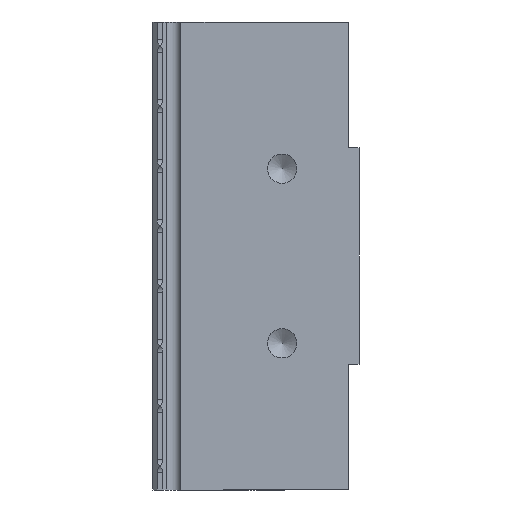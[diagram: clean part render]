
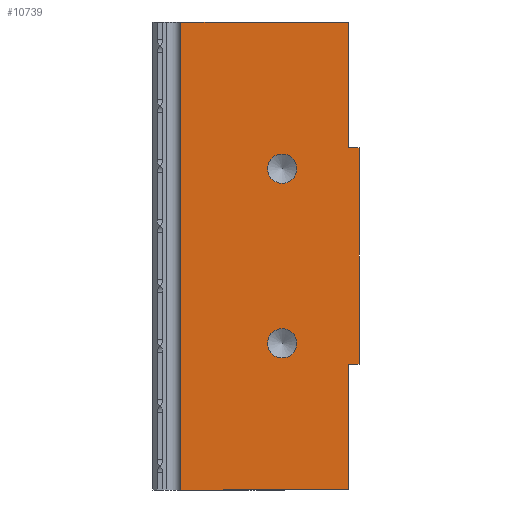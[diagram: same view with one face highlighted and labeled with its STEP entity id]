
A CAD part, left-side view. The second image highlights one B-rep face of the part: STEP entity #10739.
In plain terms, the highlighted planar face has unit normal (-1, 0, 0).
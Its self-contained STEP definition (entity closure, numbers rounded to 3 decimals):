
#243 = CARTESIAN_POINT ( 'NONE',  ( 0., 0., -15.5 ) ) ;
#264 = CARTESIAN_POINT ( 'NONE',  ( 0., 0., 0. ) ) ;
#353 = CIRCLE ( 'NONE', #11778, 2.1 ) ;
#393 = FACE_BOUND ( 'NONE', #2174, .T. ) ;
#516 = VERTEX_POINT ( 'NONE', #10118 ) ;
#534 = EDGE_CURVE ( 'NONE', #7215, #926, #5215, .T. ) ;
#791 = CARTESIAN_POINT ( 'NONE',  ( 0., 0., 33.5 ) ) ;
#792 = DIRECTION ( 'NONE',  ( 0., -1., 0. ) ) ;
#926 = VERTEX_POINT ( 'NONE', #4815 ) ;
#1058 = AXIS2_PLACEMENT_3D ( 'NONE', #264, #8599, #13028 ) ;
#1194 = ORIENTED_EDGE ( 'NONE', *, *, #8634, .F. ) ;
#1225 = VECTOR ( 'NONE', #2967, 1000. ) ;
#1498 = DIRECTION ( 'NONE',  ( 0., 1., 0. ) ) ;
#1564 = LINE ( 'NONE', #243, #12840 ) ;
#2120 = VERTEX_POINT ( 'NONE', #13006 ) ;
#2129 = CARTESIAN_POINT ( 'NONE',  ( 0., 0., 0. ) ) ;
#2174 = EDGE_LOOP ( 'NONE', ( #6117 ) ) ;
#2967 = DIRECTION ( 'NONE',  ( 0., 0., -1. ) ) ;
#3021 = CARTESIAN_POINT ( 'NONE',  ( 0., 0., 0. ) ) ;
#3140 = CARTESIAN_POINT ( 'NONE',  ( 0., -1.5, 15.5 ) ) ;
#3302 = LINE ( 'NONE', #3021, #6663 ) ;
#3545 = VERTEX_POINT ( 'NONE', #4292 ) ;
#3582 = EDGE_CURVE ( 'NONE', #8082, #8082, #5697, .T. ) ;
#3737 = VECTOR ( 'NONE', #9194, 1000. ) ;
#3916 = VERTEX_POINT ( 'NONE', #9232 ) ;
#4087 = LINE ( 'NONE', #12291, #3737 ) ;
#4217 = DIRECTION ( 'NONE',  ( 0., 0., 1. ) ) ;
#4223 = DIRECTION ( 'NONE',  ( 0., 0., -1. ) ) ;
#4292 = CARTESIAN_POINT ( 'NONE',  ( 0., -1.5, -15.5 ) ) ;
#4377 = EDGE_CURVE ( 'NONE', #3545, #8262, #6451, .T. ) ;
#4570 = DIRECTION ( 'NONE',  ( 0., 0., 1. ) ) ;
#4603 = ORIENTED_EDGE ( 'NONE', *, *, #9920, .F. ) ;
#4743 = VERTEX_POINT ( 'NONE', #8915 ) ;
#4815 = CARTESIAN_POINT ( 'NONE',  ( 0., 0., 15.5 ) ) ;
#5176 = DIRECTION ( 'NONE',  ( 0., 1., 0. ) ) ;
#5215 = LINE ( 'NONE', #2129, #1225 ) ;
#5268 = VECTOR ( 'NONE', #12173, 1000. ) ;
#5463 = EDGE_CURVE ( 'NONE', #11980, #7215, #13633, .T. ) ;
#5697 = CIRCLE ( 'NONE', #11293, 2.1 ) ;
#5744 = CARTESIAN_POINT ( 'NONE',  ( 0., 0., 33.5 ) ) ;
#6117 = ORIENTED_EDGE ( 'NONE', *, *, #3582, .F. ) ;
#6327 = EDGE_CURVE ( 'NONE', #516, #516, #353, .T. ) ;
#6443 = VECTOR ( 'NONE', #5176, 1000. ) ;
#6451 = LINE ( 'NONE', #11780, #8152 ) ;
#6488 = CARTESIAN_POINT ( 'NONE',  ( 0., 24., 33.5 ) ) ;
#6572 = PLANE ( 'NONE',  #1058 ) ;
#6663 = VECTOR ( 'NONE', #4223, 1000. ) ;
#7215 = VERTEX_POINT ( 'NONE', #5744 ) ;
#7316 = DIRECTION ( 'NONE',  ( -1., 0., 0. ) ) ;
#7409 = CARTESIAN_POINT ( 'NONE',  ( 0., 0., -33.5 ) ) ;
#7638 = DIRECTION ( 'NONE',  ( -1., 0., 0. ) ) ;
#7679 = EDGE_CURVE ( 'NONE', #926, #8262, #10326, .T. ) ;
#8022 = VECTOR ( 'NONE', #792, 1000. ) ;
#8082 = VERTEX_POINT ( 'NONE', #9069 ) ;
#8152 = VECTOR ( 'NONE', #4217, 1000. ) ;
#8262 = VERTEX_POINT ( 'NONE', #3140 ) ;
#8599 = DIRECTION ( 'NONE',  ( 1., 0., 0. ) ) ;
#8607 = EDGE_LOOP ( 'NONE', ( #9571, #9542, #9397, #11643, #4603, #13696, #9864, #1194 ) ) ;
#8634 = EDGE_CURVE ( 'NONE', #3545, #3916, #1564, .T. ) ;
#8915 = CARTESIAN_POINT ( 'NONE',  ( 0., 24., -33.5 ) ) ;
#9069 = CARTESIAN_POINT ( 'NONE',  ( 0., 9.5, 14.6 ) ) ;
#9194 = DIRECTION ( 'NONE',  ( 0., 0., 1. ) ) ;
#9232 = CARTESIAN_POINT ( 'NONE',  ( 0., 0., -15.5 ) ) ;
#9266 = CARTESIAN_POINT ( 'NONE',  ( 0., 0., 15.5 ) ) ;
#9397 = ORIENTED_EDGE ( 'NONE', *, *, #534, .F. ) ;
#9422 = CARTESIAN_POINT ( 'NONE',  ( 0., 9.5, -12.5 ) ) ;
#9542 = ORIENTED_EDGE ( 'NONE', *, *, #7679, .F. ) ;
#9571 = ORIENTED_EDGE ( 'NONE', *, *, #4377, .T. ) ;
#9864 = ORIENTED_EDGE ( 'NONE', *, *, #11164, .F. ) ;
#9887 = CARTESIAN_POINT ( 'NONE',  ( 0., 9.5, 12.5 ) ) ;
#9920 = EDGE_CURVE ( 'NONE', #4743, #11980, #4087, .T. ) ;
#10118 = CARTESIAN_POINT ( 'NONE',  ( 0., 9.5, -10.4 ) ) ;
#10326 = LINE ( 'NONE', #9266, #8022 ) ;
#10739 = ADVANCED_FACE ( 'NONE', ( #393, #11905, #12889 ), #6572, .F. ) ;
#11008 = ORIENTED_EDGE ( 'NONE', *, *, #6327, .F. ) ;
#11164 = EDGE_CURVE ( 'NONE', #3916, #2120, #3302, .T. ) ;
#11293 = AXIS2_PLACEMENT_3D ( 'NONE', #9887, #7638, #4570 ) ;
#11462 = EDGE_CURVE ( 'NONE', #2120, #4743, #12597, .T. ) ;
#11573 = EDGE_LOOP ( 'NONE', ( #11008 ) ) ;
#11609 = DIRECTION ( 'NONE',  ( 0., 0., 1. ) ) ;
#11643 = ORIENTED_EDGE ( 'NONE', *, *, #5463, .F. ) ;
#11778 = AXIS2_PLACEMENT_3D ( 'NONE', #9422, #7316, #11609 ) ;
#11780 = CARTESIAN_POINT ( 'NONE',  ( 0., -1.5, 20.25 ) ) ;
#11905 = FACE_BOUND ( 'NONE', #11573, .T. ) ;
#11980 = VERTEX_POINT ( 'NONE', #6488 ) ;
#12173 = DIRECTION ( 'NONE',  ( 0., -1., 0. ) ) ;
#12291 = CARTESIAN_POINT ( 'NONE',  ( 0., 24., -33.5 ) ) ;
#12597 = LINE ( 'NONE', #7409, #6443 ) ;
#12840 = VECTOR ( 'NONE', #1498, 1000. ) ;
#12889 = FACE_OUTER_BOUND ( 'NONE', #8607, .T. ) ;
#13006 = CARTESIAN_POINT ( 'NONE',  ( 0., 0., -33.5 ) ) ;
#13028 = DIRECTION ( 'NONE',  ( 0., 0., -1. ) ) ;
#13633 = LINE ( 'NONE', #791, #5268 ) ;
#13696 = ORIENTED_EDGE ( 'NONE', *, *, #11462, .F. ) ;
